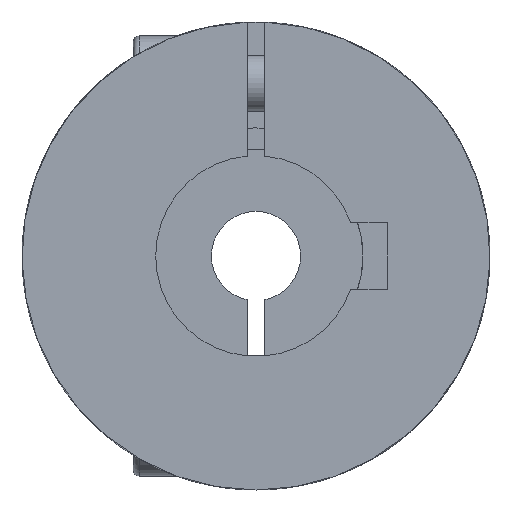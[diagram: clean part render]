
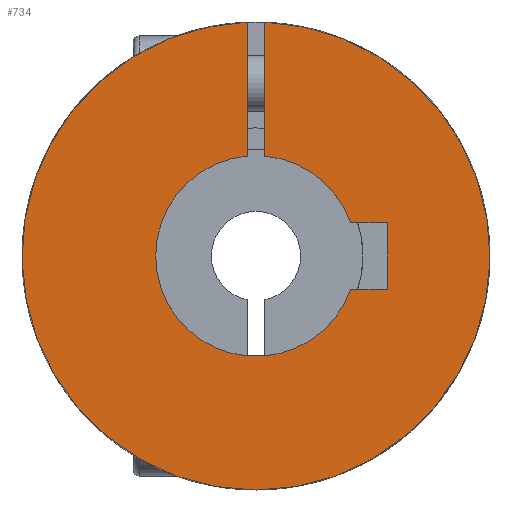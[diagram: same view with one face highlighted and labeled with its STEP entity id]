
A CAD part, left-side view. The second image highlights one B-rep face of the part: STEP entity #734.
In plain terms, the highlighted planar face has unit normal (-1, 0, 0).
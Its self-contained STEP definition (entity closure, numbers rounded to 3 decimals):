
#38 = LINE ( 'NONE', #2633, #3554 ) ;
#69 = VECTOR ( 'NONE', #1472, 1000. ) ;
#126 = CARTESIAN_POINT ( 'NONE',  ( -25., 0., 0. ) ) ;
#245 = DIRECTION ( 'NONE',  ( 0., 0., 1. ) ) ;
#367 = VECTOR ( 'NONE', #5302, 1000. ) ;
#399 = ORIENTED_EDGE ( 'NONE', *, *, #406, .T. ) ;
#406 = EDGE_CURVE ( 'NONE', #5580, #6001, #1557, .T. ) ;
#682 = DIRECTION ( 'NONE',  ( 1., 0., 0. ) ) ;
#716 = CARTESIAN_POINT ( 'NONE',  ( -25., -8.485, -3. ) ) ;
#734 = ADVANCED_FACE ( 'NONE', ( #2104 ), #4045, .F. ) ;
#846 = EDGE_CURVE ( 'NONE', #1158, #2209, #2121, .T. ) ;
#886 = DIRECTION ( 'NONE',  ( 0., -1., 0. ) ) ;
#945 = VERTEX_POINT ( 'NONE', #4810 ) ;
#1158 = VERTEX_POINT ( 'NONE', #6042 ) ;
#1238 = CIRCLE ( 'NONE', #5982, 9. ) ;
#1472 = DIRECTION ( 'NONE',  ( 0., 0., -1. ) ) ;
#1550 = DIRECTION ( 'NONE',  ( 0., 0., 1. ) ) ;
#1557 = CIRCLE ( 'NONE', #5251, 9. ) ;
#1559 = EDGE_CURVE ( 'NONE', #945, #1887, #5528, .T. ) ;
#1746 = ORIENTED_EDGE ( 'NONE', *, *, #5684, .F. ) ;
#1887 = VERTEX_POINT ( 'NONE', #2775 ) ;
#1933 = DIRECTION ( 'NONE',  ( 0., 0., 1. ) ) ;
#1939 = EDGE_LOOP ( 'NONE', ( #6500, #2656, #399, #1746, #4750, #2868, #5352, #4450, #3205, #3839 ) ) ;
#2031 = CARTESIAN_POINT ( 'NONE',  ( -25., 9., 0. ) ) ;
#2104 = FACE_OUTER_BOUND ( 'NONE', #1939, .T. ) ;
#2121 = CIRCLE ( 'NONE', #5498, 9. ) ;
#2142 = CARTESIAN_POINT ( 'NONE',  ( -25., -0.8, 20.985 ) ) ;
#2181 = VERTEX_POINT ( 'NONE', #3854 ) ;
#2209 = VERTEX_POINT ( 'NONE', #3563 ) ;
#2313 = LINE ( 'NONE', #6121, #2548 ) ;
#2548 = VECTOR ( 'NONE', #245, 1000. ) ;
#2589 = DIRECTION ( 'NONE',  ( -1., 0., 0. ) ) ;
#2633 = CARTESIAN_POINT ( 'NONE',  ( -25., -2.95, 3. ) ) ;
#2656 = ORIENTED_EDGE ( 'NONE', *, *, #2905, .T. ) ;
#2775 = CARTESIAN_POINT ( 'NONE',  ( -25., -11.8, -3. ) ) ;
#2818 = AXIS2_PLACEMENT_3D ( 'NONE', #5556, #6467, #1933 ) ;
#2868 = ORIENTED_EDGE ( 'NONE', *, *, #3858, .T. ) ;
#2905 = EDGE_CURVE ( 'NONE', #5139, #5580, #1238, .T. ) ;
#3055 = CIRCLE ( 'NONE', #6143, 21. ) ;
#3112 = DIRECTION ( 'NONE',  ( 0., -1., 0. ) ) ;
#3203 = CARTESIAN_POINT ( 'NONE',  ( -25., 0.8, 0. ) ) ;
#3205 = ORIENTED_EDGE ( 'NONE', *, *, #4421, .T. ) ;
#3426 = CARTESIAN_POINT ( 'NONE',  ( -25., -2.95, -3. ) ) ;
#3443 = DIRECTION ( 'NONE',  ( 0., -1., 0. ) ) ;
#3554 = VECTOR ( 'NONE', #3112, 1000. ) ;
#3563 = CARTESIAN_POINT ( 'NONE',  ( -25., -8.485, 3. ) ) ;
#3839 = ORIENTED_EDGE ( 'NONE', *, *, #1559, .T. ) ;
#3854 = CARTESIAN_POINT ( 'NONE',  ( -25., 0., -21. ) ) ;
#3858 = EDGE_CURVE ( 'NONE', #2181, #5310, #3055, .T. ) ;
#3907 = AXIS2_PLACEMENT_3D ( 'NONE', #126, #5011, #1550 ) ;
#4013 = CARTESIAN_POINT ( 'NONE',  ( -25., 0., 0. ) ) ;
#4045 = PLANE ( 'NONE',  #3907 ) ;
#4187 = CARTESIAN_POINT ( 'NONE',  ( -25., 0., 0. ) ) ;
#4305 = CIRCLE ( 'NONE', #2818, 21. ) ;
#4421 = EDGE_CURVE ( 'NONE', #2209, #945, #38, .T. ) ;
#4431 = DIRECTION ( 'NONE',  ( 0., 1., 0. ) ) ;
#4450 = ORIENTED_EDGE ( 'NONE', *, *, #846, .T. ) ;
#4480 = CARTESIAN_POINT ( 'NONE',  ( -25., 0.8, 20.985 ) ) ;
#4601 = DIRECTION ( 'NONE',  ( 0., 0., 1. ) ) ;
#4604 = DIRECTION ( 'NONE',  ( 1., 0., 0. ) ) ;
#4697 = LINE ( 'NONE', #3203, #367 ) ;
#4750 = ORIENTED_EDGE ( 'NONE', *, *, #4934, .T. ) ;
#4810 = CARTESIAN_POINT ( 'NONE',  ( -25., -11.8, 3. ) ) ;
#4860 = EDGE_CURVE ( 'NONE', #1887, #5139, #6062, .T. ) ;
#4934 = EDGE_CURVE ( 'NONE', #5210, #2181, #4305, .T. ) ;
#5011 = DIRECTION ( 'NONE',  ( 1., 0., 0. ) ) ;
#5104 = CARTESIAN_POINT ( 'NONE',  ( -25., 0., 0. ) ) ;
#5139 = VERTEX_POINT ( 'NONE', #716 ) ;
#5150 = EDGE_CURVE ( 'NONE', #1158, #5310, #2313, .T. ) ;
#5210 = VERTEX_POINT ( 'NONE', #4480 ) ;
#5251 = AXIS2_PLACEMENT_3D ( 'NONE', #6491, #5927, #886 ) ;
#5302 = DIRECTION ( 'NONE',  ( 0., 0., -1. ) ) ;
#5310 = VERTEX_POINT ( 'NONE', #2142 ) ;
#5352 = ORIENTED_EDGE ( 'NONE', *, *, #5150, .F. ) ;
#5498 = AXIS2_PLACEMENT_3D ( 'NONE', #4013, #4604, #3443 ) ;
#5528 = LINE ( 'NONE', #6065, #69 ) ;
#5556 = CARTESIAN_POINT ( 'NONE',  ( -25., 0., 0. ) ) ;
#5580 = VERTEX_POINT ( 'NONE', #2031 ) ;
#5684 = EDGE_CURVE ( 'NONE', #5210, #6001, #4697, .T. ) ;
#5757 = DIRECTION ( 'NONE',  ( 0., -1., 0. ) ) ;
#5798 = VECTOR ( 'NONE', #4431, 1000. ) ;
#5927 = DIRECTION ( 'NONE',  ( 1., 0., 0. ) ) ;
#5982 = AXIS2_PLACEMENT_3D ( 'NONE', #4187, #682, #5757 ) ;
#6001 = VERTEX_POINT ( 'NONE', #6063 ) ;
#6042 = CARTESIAN_POINT ( 'NONE',  ( -25., -0.8, 8.964 ) ) ;
#6062 = LINE ( 'NONE', #3426, #5798 ) ;
#6063 = CARTESIAN_POINT ( 'NONE',  ( -25., 0.8, 8.964 ) ) ;
#6065 = CARTESIAN_POINT ( 'NONE',  ( -25., -11.8, 0. ) ) ;
#6121 = CARTESIAN_POINT ( 'NONE',  ( -25., -0.8, 0. ) ) ;
#6143 = AXIS2_PLACEMENT_3D ( 'NONE', #5104, #2589, #4601 ) ;
#6467 = DIRECTION ( 'NONE',  ( -1., 0., 0. ) ) ;
#6491 = CARTESIAN_POINT ( 'NONE',  ( -25., 0., 0. ) ) ;
#6500 = ORIENTED_EDGE ( 'NONE', *, *, #4860, .T. ) ;
